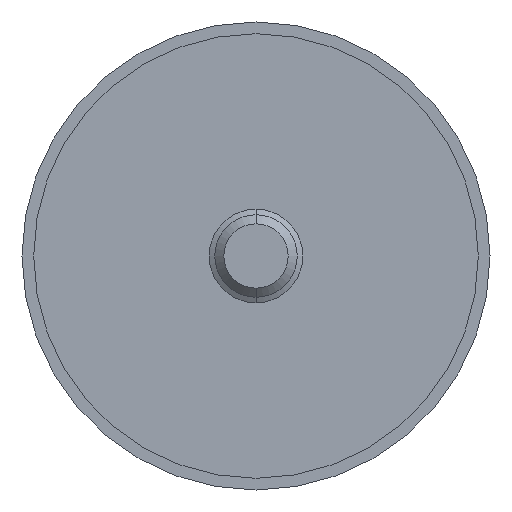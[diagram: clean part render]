
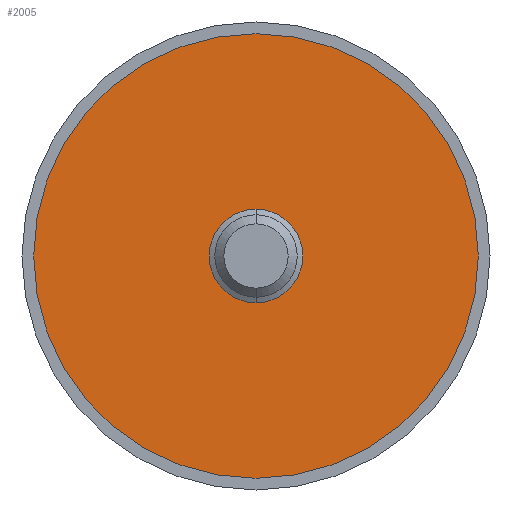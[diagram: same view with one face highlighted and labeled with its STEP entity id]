
A CAD part, front view. The second image highlights one B-rep face of the part: STEP entity #2005.
In plain terms, the highlighted planar face has unit normal (0, -1, 0).
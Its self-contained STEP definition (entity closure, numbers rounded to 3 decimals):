
#246 = ORIENTED_EDGE ( 'NONE', *, *, #1289, .F. ) ;
#310 = CIRCLE ( 'NONE', #4254, 4. ) ;
#518 = VERTEX_POINT ( 'NONE', #2288 ) ;
#798 = DIRECTION ( 'NONE',  ( 0., 0., 1. ) ) ;
#908 = EDGE_CURVE ( 'NONE', #1601, #3579, #310, .T. ) ;
#1084 = CARTESIAN_POINT ( 'NONE',  ( 0., -2., -4. ) ) ;
#1192 = AXIS2_PLACEMENT_3D ( 'NONE', #3793, #4083, #798 ) ;
#1260 = EDGE_LOOP ( 'NONE', ( #246, #2764 ) ) ;
#1270 = CIRCLE ( 'NONE', #2787, 19. ) ;
#1279 = CIRCLE ( 'NONE', #2983, 4. ) ;
#1289 = EDGE_CURVE ( 'NONE', #2682, #518, #2768, .T. ) ;
#1426 = AXIS2_PLACEMENT_3D ( 'NONE', #4193, #3806, #1737 ) ;
#1431 = DIRECTION ( 'NONE',  ( 0., 0., 1. ) ) ;
#1514 = CARTESIAN_POINT ( 'NONE',  ( 0., -2., 4. ) ) ;
#1528 = CARTESIAN_POINT ( 'NONE',  ( 0., -2., 0. ) ) ;
#1601 = VERTEX_POINT ( 'NONE', #1514 ) ;
#1737 = DIRECTION ( 'NONE',  ( 0., 0., 1. ) ) ;
#1796 = DIRECTION ( 'NONE',  ( 0., 1., 0. ) ) ;
#1818 = ORIENTED_EDGE ( 'NONE', *, *, #908, .F. ) ;
#1951 = FACE_BOUND ( 'NONE', #2301, .T. ) ;
#2005 = ADVANCED_FACE ( 'NONE', ( #1951, #3636 ), #2033, .F. ) ;
#2033 = PLANE ( 'NONE',  #1192 ) ;
#2064 = EDGE_CURVE ( 'NONE', #3579, #1601, #1279, .T. ) ;
#2288 = CARTESIAN_POINT ( 'NONE',  ( 0., -2., -19. ) ) ;
#2301 = EDGE_LOOP ( 'NONE', ( #1818, #2791 ) ) ;
#2635 = DIRECTION ( 'NONE',  ( 0., 0., -1. ) ) ;
#2682 = VERTEX_POINT ( 'NONE', #3933 ) ;
#2764 = ORIENTED_EDGE ( 'NONE', *, *, #4045, .F. ) ;
#2768 = CIRCLE ( 'NONE', #1426, 19. ) ;
#2787 = AXIS2_PLACEMENT_3D ( 'NONE', #3148, #1796, #1431 ) ;
#2791 = ORIENTED_EDGE ( 'NONE', *, *, #2064, .F. ) ;
#2983 = AXIS2_PLACEMENT_3D ( 'NONE', #3310, #4350, #2635 ) ;
#3148 = CARTESIAN_POINT ( 'NONE',  ( 0., -2., 0. ) ) ;
#3265 = DIRECTION ( 'NONE',  ( 0., -1., 0. ) ) ;
#3310 = CARTESIAN_POINT ( 'NONE',  ( 0., -2., 0. ) ) ;
#3579 = VERTEX_POINT ( 'NONE', #1084 ) ;
#3636 = FACE_OUTER_BOUND ( 'NONE', #1260, .T. ) ;
#3793 = CARTESIAN_POINT ( 'NONE',  ( 0., -2., 0. ) ) ;
#3806 = DIRECTION ( 'NONE',  ( 0., 1., 0. ) ) ;
#3933 = CARTESIAN_POINT ( 'NONE',  ( 0., -2., 19. ) ) ;
#3980 = DIRECTION ( 'NONE',  ( 0., 0., -1. ) ) ;
#4045 = EDGE_CURVE ( 'NONE', #518, #2682, #1270, .T. ) ;
#4083 = DIRECTION ( 'NONE',  ( 0., 1., 0. ) ) ;
#4193 = CARTESIAN_POINT ( 'NONE',  ( 0., -2., 0. ) ) ;
#4254 = AXIS2_PLACEMENT_3D ( 'NONE', #1528, #3265, #3980 ) ;
#4350 = DIRECTION ( 'NONE',  ( 0., -1., 0. ) ) ;
